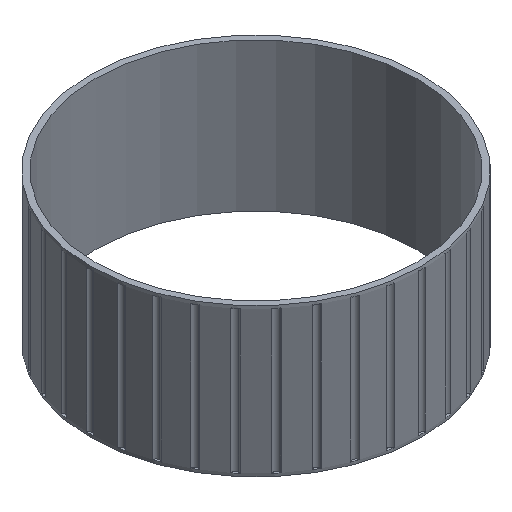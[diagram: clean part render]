
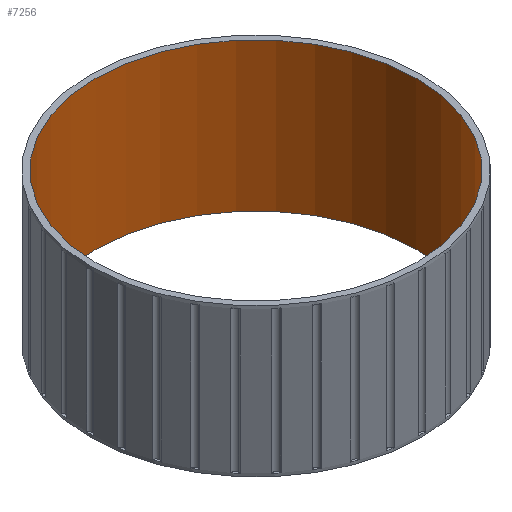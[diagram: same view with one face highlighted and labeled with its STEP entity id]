
A CAD part, isometric view. The second image highlights one B-rep face of the part: STEP entity #7256.
In plain terms, the highlighted cylindrical face has radius 8.2 mm (diameter 16.4 mm), a full revolution.
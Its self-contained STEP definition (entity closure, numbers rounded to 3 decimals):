
#150 = PLANE('',#151);
#151 = AXIS2_PLACEMENT_3D('',#152,#153,#154);
#152 = CARTESIAN_POINT('',(0.,0.,8.8));
#153 = DIRECTION('',(0.,0.,1.));
#154 = DIRECTION('',(1.,0.,-0.));
#268 = PLANE('',#269);
#269 = AXIS2_PLACEMENT_3D('',#270,#271,#272);
#270 = CARTESIAN_POINT('',(0.,0.,1.2));
#271 = DIRECTION('',(0.,0.,1.));
#272 = DIRECTION('',(1.,0.,-0.));
#4124 = EDGE_CURVE('',#4125,#4125,#4127,.T.);
#4125 = VERTEX_POINT('',#4126);
#4126 = CARTESIAN_POINT('',(8.2,0.,1.2));
#4127 = SURFACE_CURVE('',#4128,(#4133,#4140),.PCURVE_S1.);
#4128 = CIRCLE('',#4129,8.2);
#4129 = AXIS2_PLACEMENT_3D('',#4130,#4131,#4132);
#4130 = CARTESIAN_POINT('',(0.,0.,1.2));
#4131 = DIRECTION('',(0.,0.,1.));
#4132 = DIRECTION('',(1.,0.,-0.));
#4133 = PCURVE('',#268,#4134);
#4134 = DEFINITIONAL_REPRESENTATION('',(#4135),#4139);
#4135 = CIRCLE('',#4136,8.2);
#4136 = AXIS2_PLACEMENT_2D('',#4137,#4138);
#4137 = CARTESIAN_POINT('',(0.,0.));
#4138 = DIRECTION('',(1.,0.));
#4139 = ( GEOMETRIC_REPRESENTATION_CONTEXT(2) 
PARAMETRIC_REPRESENTATION_CONTEXT() REPRESENTATION_CONTEXT('2D SPACE',''
  ) );
#4140 = PCURVE('',#4141,#4146);
#4141 = CYLINDRICAL_SURFACE('',#4142,8.2);
#4142 = AXIS2_PLACEMENT_3D('',#4143,#4144,#4145);
#4143 = CARTESIAN_POINT('',(0.,0.,1.19));
#4144 = DIRECTION('',(0.,0.,1.));
#4145 = DIRECTION('',(1.,0.,-0.));
#4146 = DEFINITIONAL_REPRESENTATION('',(#4147),#4151);
#4147 = LINE('',#4148,#4149);
#4148 = CARTESIAN_POINT('',(0.,0.01));
#4149 = VECTOR('',#4150,1.);
#4150 = DIRECTION('',(1.,0.));
#4151 = ( GEOMETRIC_REPRESENTATION_CONTEXT(2) 
PARAMETRIC_REPRESENTATION_CONTEXT() REPRESENTATION_CONTEXT('2D SPACE',''
  ) );
#4193 = EDGE_CURVE('',#4194,#4194,#4196,.T.);
#4194 = VERTEX_POINT('',#4195);
#4195 = CARTESIAN_POINT('',(8.2,0.,8.8));
#4196 = SURFACE_CURVE('',#4197,(#4202,#4209),.PCURVE_S1.);
#4197 = CIRCLE('',#4198,8.2);
#4198 = AXIS2_PLACEMENT_3D('',#4199,#4200,#4201);
#4199 = CARTESIAN_POINT('',(0.,0.,8.8));
#4200 = DIRECTION('',(0.,0.,1.));
#4201 = DIRECTION('',(1.,0.,-0.));
#4202 = PCURVE('',#150,#4203);
#4203 = DEFINITIONAL_REPRESENTATION('',(#4204),#4208);
#4204 = CIRCLE('',#4205,8.2);
#4205 = AXIS2_PLACEMENT_2D('',#4206,#4207);
#4206 = CARTESIAN_POINT('',(0.,0.));
#4207 = DIRECTION('',(1.,0.));
#4208 = ( GEOMETRIC_REPRESENTATION_CONTEXT(2) 
PARAMETRIC_REPRESENTATION_CONTEXT() REPRESENTATION_CONTEXT('2D SPACE',''
  ) );
#4209 = PCURVE('',#4141,#4210);
#4210 = DEFINITIONAL_REPRESENTATION('',(#4211),#4215);
#4211 = LINE('',#4212,#4213);
#4212 = CARTESIAN_POINT('',(0.,7.61));
#4213 = VECTOR('',#4214,1.);
#4214 = DIRECTION('',(1.,0.));
#4215 = ( GEOMETRIC_REPRESENTATION_CONTEXT(2) 
PARAMETRIC_REPRESENTATION_CONTEXT() REPRESENTATION_CONTEXT('2D SPACE',''
  ) );
#7256 = ADVANCED_FACE('',(#7257),#4141,.F.);
#7257 = FACE_BOUND('',#7258,.F.);
#7258 = EDGE_LOOP('',(#7259,#7260,#7281,#7282));
#7259 = ORIENTED_EDGE('',*,*,#4193,.F.);
#7260 = ORIENTED_EDGE('',*,*,#7261,.F.);
#7261 = EDGE_CURVE('',#4125,#4194,#7262,.T.);
#7262 = SEAM_CURVE('',#7263,(#7267,#7274),.PCURVE_S1.);
#7263 = LINE('',#7264,#7265);
#7264 = CARTESIAN_POINT('',(8.2,0.,1.19));
#7265 = VECTOR('',#7266,1.);
#7266 = DIRECTION('',(0.,0.,1.));
#7267 = PCURVE('',#4141,#7268);
#7268 = DEFINITIONAL_REPRESENTATION('',(#7269),#7273);
#7269 = LINE('',#7270,#7271);
#7270 = CARTESIAN_POINT('',(6.283,-0.));
#7271 = VECTOR('',#7272,1.);
#7272 = DIRECTION('',(0.,1.));
#7273 = ( GEOMETRIC_REPRESENTATION_CONTEXT(2) 
PARAMETRIC_REPRESENTATION_CONTEXT() REPRESENTATION_CONTEXT('2D SPACE',''
  ) );
#7274 = PCURVE('',#4141,#7275);
#7275 = DEFINITIONAL_REPRESENTATION('',(#7276),#7280);
#7276 = LINE('',#7277,#7278);
#7277 = CARTESIAN_POINT('',(0.,-0.));
#7278 = VECTOR('',#7279,1.);
#7279 = DIRECTION('',(0.,1.));
#7280 = ( GEOMETRIC_REPRESENTATION_CONTEXT(2) 
PARAMETRIC_REPRESENTATION_CONTEXT() REPRESENTATION_CONTEXT('2D SPACE',''
  ) );
#7281 = ORIENTED_EDGE('',*,*,#4124,.T.);
#7282 = ORIENTED_EDGE('',*,*,#7261,.T.);
